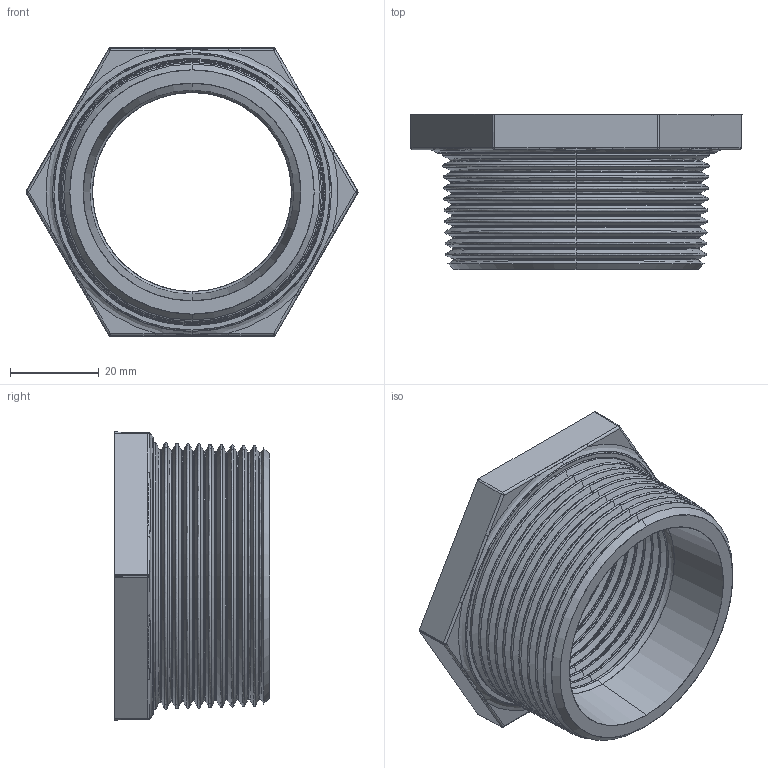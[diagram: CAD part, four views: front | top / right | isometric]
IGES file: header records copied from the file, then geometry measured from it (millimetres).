
Start section: SolidWorks IGES file using analytic representation for surfaces
Global section: file name: C:\Users\Joel Rosa\Desktop\Tubulação\12-01-OK\12-01-047.IGS; native system: SolidWorks 2011; preprocessor: SolidWorks 2011; author: Joel Rosa; date: 121203.200608; units: millimetre
Bounding box: 74.9 x 35 x 65 mm (x, y, z)
Surface area: 20349.8 mm2 (no closed solid volume)
Topology: 0 solids, 0 shells, 380 faces, 2983 edges, 2983 vertices
Faces by surface type: bspline 268, revolution 112
